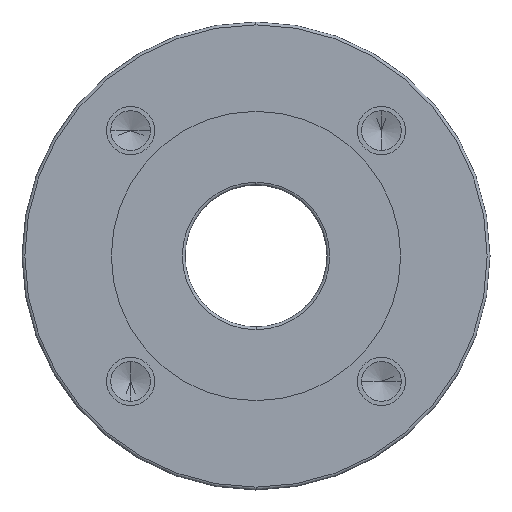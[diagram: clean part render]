
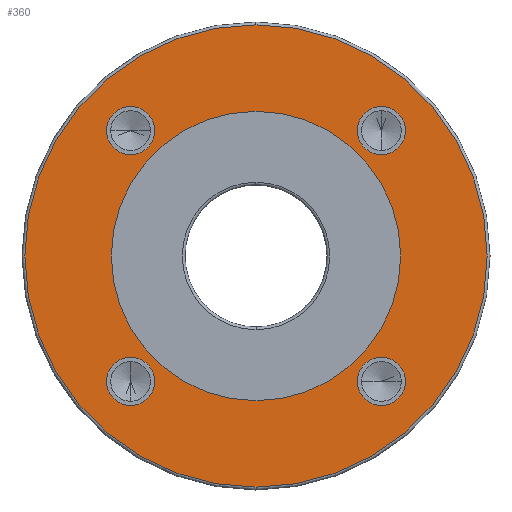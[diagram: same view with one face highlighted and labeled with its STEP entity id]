
A CAD part, left-side view. The second image highlights one B-rep face of the part: STEP entity #360.
In plain terms, the highlighted planar face has unit normal (-1, 0, 0).
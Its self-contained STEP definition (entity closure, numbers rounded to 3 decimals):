
#106 = VERTEX_POINT ( 'NONE', #792 ) ;
#141 = EDGE_CURVE ( 'NONE', #142, #106, #902, .T. ) ;
#142 = VERTEX_POINT ( 'NONE', #895 ) ;
#166 = EDGE_CURVE ( 'NONE', #192, #191, #944, .T. ) ;
#191 = VERTEX_POINT ( 'NONE', #961 ) ;
#192 = VERTEX_POINT ( 'NONE', #1010 ) ;
#239 = VERTEX_POINT ( 'NONE', #1058 ) ;
#240 = VERTEX_POINT ( 'NONE', #1095 ) ;
#246 = EDGE_CURVE ( 'NONE', #240, #239, #1077, .T. ) ;
#275 = EDGE_CURVE ( 'NONE', #297, #286, #1194, .T. ) ;
#286 = VERTEX_POINT ( 'NONE', #1185 ) ;
#297 = VERTEX_POINT ( 'NONE', #1213 ) ;
#305 = EDGE_LOOP ( 'NONE', ( #368, #367 ) ) ;
#309 = EDGE_CURVE ( 'NONE', #191, #192, #1246, .T. ) ;
#310 = ORIENTED_EDGE ( 'NONE', *, *, #330, .T. ) ;
#311 = ORIENTED_EDGE ( 'NONE', *, *, #369, .F. ) ;
#312 = EDGE_CURVE ( 'NONE', #638, #591, #1207, .T. ) ;
#324 = EDGE_LOOP ( 'NONE', ( #310, #361 ) ) ;
#330 = EDGE_CURVE ( 'NONE', #106, #142, #1249, .T. ) ;
#335 = EDGE_LOOP ( 'NONE', ( #362, #365 ) ) ;
#350 = ORIENTED_EDGE ( 'NONE', *, *, #275, .F. ) ;
#351 = EDGE_LOOP ( 'NONE', ( #370, #359 ) ) ;
#352 = EDGE_LOOP ( 'NONE', ( #353, #354 ) ) ;
#353 = ORIENTED_EDGE ( 'NONE', *, *, #309, .F. ) ;
#354 = ORIENTED_EDGE ( 'NONE', *, *, #166, .F. ) ;
#356 = EDGE_CURVE ( 'NONE', #562, #552, #1292, .T. ) ;
#359 = ORIENTED_EDGE ( 'NONE', *, *, #561, .F. ) ;
#360 = ADVANCED_FACE ( 'NONE', ( #1258, #1337, #1259, #1286, #1285, #1287 ), #1295, .F. ) ;
#361 = ORIENTED_EDGE ( 'NONE', *, *, #141, .T. ) ;
#362 = ORIENTED_EDGE ( 'NONE', *, *, #312, .F. ) ;
#363 = EDGE_LOOP ( 'NONE', ( #350, #311 ) ) ;
#365 = ORIENTED_EDGE ( 'NONE', *, *, #635, .F. ) ;
#366 = EDGE_CURVE ( 'NONE', #239, #240, #1335, .T. ) ;
#367 = ORIENTED_EDGE ( 'NONE', *, *, #246, .F. ) ;
#368 = ORIENTED_EDGE ( 'NONE', *, *, #366, .F. ) ;
#369 = EDGE_CURVE ( 'NONE', #286, #297, #1293, .T. ) ;
#370 = ORIENTED_EDGE ( 'NONE', *, *, #356, .F. ) ;
#552 = VERTEX_POINT ( 'NONE', #1616 ) ;
#561 = EDGE_CURVE ( 'NONE', #552, #562, #1647, .T. ) ;
#562 = VERTEX_POINT ( 'NONE', #1639 ) ;
#591 = VERTEX_POINT ( 'NONE', #1705 ) ;
#635 = EDGE_CURVE ( 'NONE', #591, #638, #1793, .T. ) ;
#638 = VERTEX_POINT ( 'NONE', #1749 ) ;
#792 = CARTESIAN_POINT ( 'NONE',  ( -32., 0., -81.5 ) ) ;
#891 = DIRECTION ( 'NONE',  ( 0., 0., -1. ) ) ;
#892 = DIRECTION ( 'NONE',  ( -1., 0., 0. ) ) ;
#893 = CARTESIAN_POINT ( 'NONE',  ( -32., 0., 0. ) ) ;
#894 = AXIS2_PLACEMENT_3D ( 'NONE', #893, #892, #891 ) ;
#895 = CARTESIAN_POINT ( 'NONE',  ( -32., 0., 81.5 ) ) ;
#902 = CIRCLE ( 'NONE', #894, 81.5 ) ;
#941 = DIRECTION ( 'NONE',  ( 0., 0., -1. ) ) ;
#942 = DIRECTION ( 'NONE',  ( -1., 0., 0. ) ) ;
#944 = CIRCLE ( 'NONE', #955, 8.5 ) ;
#948 = CARTESIAN_POINT ( 'NONE',  ( -32., -44.194, -44.194 ) ) ;
#955 = AXIS2_PLACEMENT_3D ( 'NONE', #948, #942, #941 ) ;
#961 = CARTESIAN_POINT ( 'NONE',  ( -32., -35.694, -44.194 ) ) ;
#1010 = CARTESIAN_POINT ( 'NONE',  ( -32., -52.694, -44.194 ) ) ;
#1058 = CARTESIAN_POINT ( 'NONE',  ( -32., 44.194, -35.694 ) ) ;
#1075 = DIRECTION ( 'NONE',  ( 0., 0., -1. ) ) ;
#1076 = DIRECTION ( 'NONE',  ( -1., 0., 0. ) ) ;
#1077 = CIRCLE ( 'NONE', #1088, 8.5 ) ;
#1087 = CARTESIAN_POINT ( 'NONE',  ( -32., 44.194, -44.194 ) ) ;
#1088 = AXIS2_PLACEMENT_3D ( 'NONE', #1087, #1076, #1075 ) ;
#1095 = CARTESIAN_POINT ( 'NONE',  ( -32., 44.194, -52.694 ) ) ;
#1137 = CARTESIAN_POINT ( 'NONE',  ( -32., 0., 0. ) ) ;
#1183 = DIRECTION ( 'NONE',  ( 0., 0., 1. ) ) ;
#1184 = DIRECTION ( 'NONE',  ( -1., 0., 0. ) ) ;
#1185 = CARTESIAN_POINT ( 'NONE',  ( -32., 0., -51. ) ) ;
#1192 = AXIS2_PLACEMENT_3D ( 'NONE', #1137, #1184, #1183 ) ;
#1194 = CIRCLE ( 'NONE', #1192, 51. ) ;
#1207 = CIRCLE ( 'NONE', #1235, 8.5 ) ;
#1213 = CARTESIAN_POINT ( 'NONE',  ( -32., 0., 51. ) ) ;
#1232 = DIRECTION ( 'NONE',  ( 0., 0., -1. ) ) ;
#1233 = DIRECTION ( 'NONE',  ( -1., 0., 0. ) ) ;
#1234 = CARTESIAN_POINT ( 'NONE',  ( -32., -44.194, 44.194 ) ) ;
#1235 = AXIS2_PLACEMENT_3D ( 'NONE', #1234, #1233, #1232 ) ;
#1237 = DIRECTION ( 'NONE',  ( 0., 0., -1. ) ) ;
#1238 = DIRECTION ( 'NONE',  ( -1., 0., 0. ) ) ;
#1240 = AXIS2_PLACEMENT_3D ( 'NONE', #1245, #1238, #1237 ) ;
#1245 = CARTESIAN_POINT ( 'NONE',  ( -32., -44.194, -44.194 ) ) ;
#1246 = CIRCLE ( 'NONE', #1240, 8.5 ) ;
#1249 = CIRCLE ( 'NONE', #1269, 81.5 ) ;
#1255 = DIRECTION ( 'NONE',  ( 0., 0., -1. ) ) ;
#1256 = DIRECTION ( 'NONE',  ( -1., 0., 0. ) ) ;
#1258 = FACE_OUTER_BOUND ( 'NONE', #324, .T. ) ;
#1259 = FACE_BOUND ( 'NONE', #305, .T. ) ;
#1264 = CARTESIAN_POINT ( 'NONE',  ( -32., 0., 0. ) ) ;
#1269 = AXIS2_PLACEMENT_3D ( 'NONE', #1264, #1256, #1255 ) ;
#1276 = AXIS2_PLACEMENT_3D ( 'NONE', #1284, #1283, #1282 ) ;
#1282 = DIRECTION ( 'NONE',  ( 0., 0., -1. ) ) ;
#1283 = DIRECTION ( 'NONE',  ( -1., 0., 0. ) ) ;
#1284 = CARTESIAN_POINT ( 'NONE',  ( -32., 44.194, 44.194 ) ) ;
#1285 = FACE_BOUND ( 'NONE', #352, .T. ) ;
#1286 = FACE_BOUND ( 'NONE', #363, .T. ) ;
#1287 = FACE_BOUND ( 'NONE', #351, .T. ) ;
#1292 = CIRCLE ( 'NONE', #1276, 8.5 ) ;
#1293 = CIRCLE ( 'NONE', #1329, 51. ) ;
#1295 = PLANE ( 'NONE',  #1333 ) ;
#1318 = DIRECTION ( 'NONE',  ( 0., 0., 1. ) ) ;
#1319 = DIRECTION ( 'NONE',  ( -1., 0., 0. ) ) ;
#1320 = CARTESIAN_POINT ( 'NONE',  ( -32., 0., 0. ) ) ;
#1324 = DIRECTION ( 'NONE',  ( 0., 0., -1. ) ) ;
#1325 = DIRECTION ( 'NONE',  ( -1., 0., 0. ) ) ;
#1326 = CARTESIAN_POINT ( 'NONE',  ( -32., 44.194, -44.194 ) ) ;
#1327 = AXIS2_PLACEMENT_3D ( 'NONE', #1326, #1325, #1324 ) ;
#1329 = AXIS2_PLACEMENT_3D ( 'NONE', #1320, #1319, #1318 ) ;
#1330 = DIRECTION ( 'NONE',  ( 0., 0., -1. ) ) ;
#1331 = DIRECTION ( 'NONE',  ( 1., 0., 0. ) ) ;
#1332 = CARTESIAN_POINT ( 'NONE',  ( -32., 82.5, 0. ) ) ;
#1333 = AXIS2_PLACEMENT_3D ( 'NONE', #1332, #1331, #1330 ) ;
#1335 = CIRCLE ( 'NONE', #1327, 8.5 ) ;
#1337 = FACE_BOUND ( 'NONE', #335, .T. ) ;
#1616 = CARTESIAN_POINT ( 'NONE',  ( -32., 52.694, 44.194 ) ) ;
#1636 = DIRECTION ( 'NONE',  ( 0., 0., -1. ) ) ;
#1637 = DIRECTION ( 'NONE',  ( -1., 0., 0. ) ) ;
#1638 = CARTESIAN_POINT ( 'NONE',  ( -32., 44.194, 44.194 ) ) ;
#1639 = CARTESIAN_POINT ( 'NONE',  ( -32., 35.694, 44.194 ) ) ;
#1647 = CIRCLE ( 'NONE', #1652, 8.5 ) ;
#1652 = AXIS2_PLACEMENT_3D ( 'NONE', #1638, #1637, #1636 ) ;
#1705 = CARTESIAN_POINT ( 'NONE',  ( -32., -44.194, 52.694 ) ) ;
#1745 = AXIS2_PLACEMENT_3D ( 'NONE', #1785, #1784, #1783 ) ;
#1749 = CARTESIAN_POINT ( 'NONE',  ( -32., -44.194, 35.694 ) ) ;
#1783 = DIRECTION ( 'NONE',  ( 0., 0., -1. ) ) ;
#1784 = DIRECTION ( 'NONE',  ( -1., 0., 0. ) ) ;
#1785 = CARTESIAN_POINT ( 'NONE',  ( -32., -44.194, 44.194 ) ) ;
#1793 = CIRCLE ( 'NONE', #1745, 8.5 ) ;
